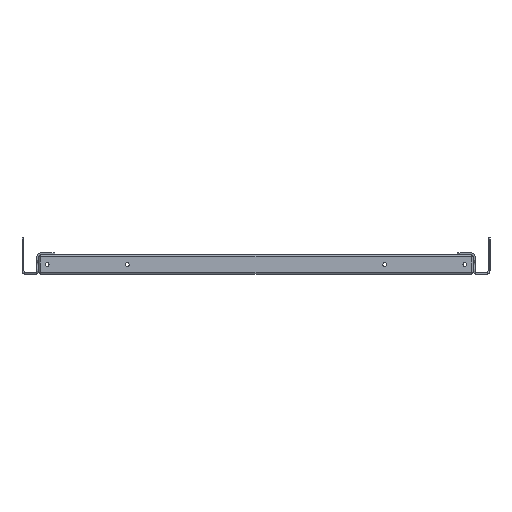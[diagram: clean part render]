
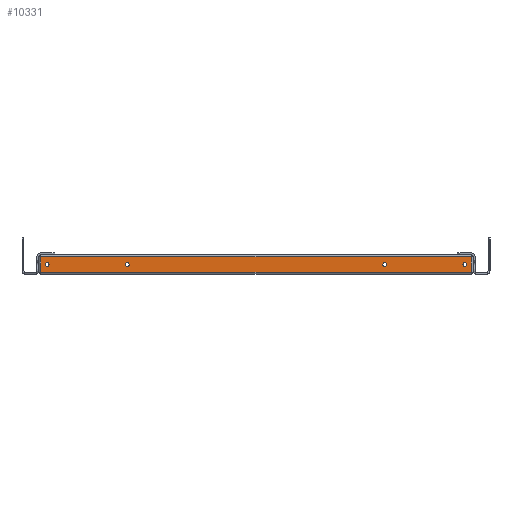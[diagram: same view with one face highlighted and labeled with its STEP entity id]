
A CAD part, left-side view. The second image highlights one B-rep face of the part: STEP entity #10331.
In plain terms, the highlighted planar face has unit normal (-1, 0, 0).
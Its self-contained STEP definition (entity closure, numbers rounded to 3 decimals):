
#59 = DIRECTION ( 'NONE',  ( 0., 0., -1. ) ) ;
#66 = DIRECTION ( 'NONE',  ( 0., -1., 0. ) ) ;
#78 = DIRECTION ( 'NONE',  ( 1., 0., 0. ) ) ;
#213 = DIRECTION ( 'NONE',  ( -1., 0., 0. ) ) ;
#620 = DIRECTION ( 'NONE',  ( 0., 0., 1. ) ) ;
#760 = EDGE_LOOP ( 'NONE', ( #4467, #8200 ) ) ;
#864 = CARTESIAN_POINT ( 'NONE',  ( -425., 133.5, 10. ) ) ;
#921 = AXIS2_PLACEMENT_3D ( 'NONE', #2497, #1570, #620 ) ;
#1041 = VERTEX_POINT ( 'NONE', #10441 ) ;
#1152 = FACE_OUTER_BOUND ( 'NONE', #5793, .T. ) ;
#1268 = VERTEX_POINT ( 'NONE', #12541 ) ;
#1274 = VERTEX_POINT ( 'NONE', #9699 ) ;
#1540 = LINE ( 'NONE', #11308, #3999 ) ;
#1570 = DIRECTION ( 'NONE',  ( -1., 0., 0. ) ) ;
#1728 = VECTOR ( 'NONE', #8345, 1000. ) ;
#1748 = ORIENTED_EDGE ( 'NONE', *, *, #8289, .F. ) ;
#1827 = CARTESIAN_POINT ( 'NONE',  ( -425., -133.5, 10. ) ) ;
#2008 = EDGE_LOOP ( 'NONE', ( #1748, #7408 ) ) ;
#2069 = CARTESIAN_POINT ( 'NONE',  ( -425., -225., 20. ) ) ;
#2109 = VERTEX_POINT ( 'NONE', #6163 ) ;
#2121 = EDGE_CURVE ( 'NONE', #6153, #2109, #7494, .T. ) ;
#2497 = CARTESIAN_POINT ( 'NONE',  ( -425., 216.5, 10. ) ) ;
#2522 = AXIS2_PLACEMENT_3D ( 'NONE', #3559, #4556, #8524 ) ;
#2817 = DIRECTION ( 'NONE',  ( -1., 0., 0. ) ) ;
#2843 = AXIS2_PLACEMENT_3D ( 'NONE', #864, #2817, #12334 ) ;
#2924 = VERTEX_POINT ( 'NONE', #3326 ) ;
#2932 = CARTESIAN_POINT ( 'NONE',  ( -425., 216.5, 12. ) ) ;
#2953 = CIRCLE ( 'NONE', #10430, 2. ) ;
#3271 = CARTESIAN_POINT ( 'NONE',  ( -425., 133.5, 10. ) ) ;
#3279 = ORIENTED_EDGE ( 'NONE', *, *, #10116, .T. ) ;
#3293 = VERTEX_POINT ( 'NONE', #12342 ) ;
#3326 = CARTESIAN_POINT ( 'NONE',  ( -425., -223., 2. ) ) ;
#3463 = CARTESIAN_POINT ( 'NONE',  ( -425., -223., 20. ) ) ;
#3559 = CARTESIAN_POINT ( 'NONE',  ( -425., -133.5, 10. ) ) ;
#3872 = EDGE_CURVE ( 'NONE', #1268, #1041, #8554, .T. ) ;
#3999 = VECTOR ( 'NONE', #9454, 1000. ) ;
#4152 = EDGE_CURVE ( 'NONE', #2109, #6153, #8236, .T. ) ;
#4467 = ORIENTED_EDGE ( 'NONE', *, *, #2121, .F. ) ;
#4556 = DIRECTION ( 'NONE',  ( 1., 0., 0. ) ) ;
#4758 = CIRCLE ( 'NONE', #921, 2. ) ;
#4946 = DIRECTION ( 'NONE',  ( 0., 0., 1. ) ) ;
#5019 = AXIS2_PLACEMENT_3D ( 'NONE', #2069, #10802, #59 ) ;
#5111 = FACE_BOUND ( 'NONE', #2008, .T. ) ;
#5133 = EDGE_CURVE ( 'NONE', #3293, #11257, #10535, .T. ) ;
#5175 = VERTEX_POINT ( 'NONE', #9417 ) ;
#5345 = EDGE_CURVE ( 'NONE', #1041, #2924, #12385, .T. ) ;
#5484 = DIRECTION ( 'NONE',  ( 0., 0., 1. ) ) ;
#5564 = CARTESIAN_POINT ( 'NONE',  ( -425., 216.5, 10. ) ) ;
#5793 = EDGE_LOOP ( 'NONE', ( #7768, #9583, #7449, #6350 ) ) ;
#5988 = ORIENTED_EDGE ( 'NONE', *, *, #6511, .T. ) ;
#6153 = VERTEX_POINT ( 'NONE', #10255 ) ;
#6163 = CARTESIAN_POINT ( 'NONE',  ( -425., 133.5, 8. ) ) ;
#6323 = DIRECTION ( 'NONE',  ( 0., 0., 1. ) ) ;
#6350 = ORIENTED_EDGE ( 'NONE', *, *, #5345, .T. ) ;
#6463 = DIRECTION ( 'NONE',  ( 0., 0., 1. ) ) ;
#6476 = VERTEX_POINT ( 'NONE', #2932 ) ;
#6511 = EDGE_CURVE ( 'NONE', #9754, #7193, #8183, .T. ) ;
#6632 = DIRECTION ( 'NONE',  ( 1., 0., 0. ) ) ;
#6978 = FACE_BOUND ( 'NONE', #7900, .T. ) ;
#7193 = VERTEX_POINT ( 'NONE', #8320 ) ;
#7408 = ORIENTED_EDGE ( 'NONE', *, *, #9484, .F. ) ;
#7449 = ORIENTED_EDGE ( 'NONE', *, *, #3872, .T. ) ;
#7472 = DIRECTION ( 'NONE',  ( 0., 0., -1. ) ) ;
#7494 = CIRCLE ( 'NONE', #11437, 2. ) ;
#7768 = ORIENTED_EDGE ( 'NONE', *, *, #11646, .T. ) ;
#7900 = EDGE_LOOP ( 'NONE', ( #11050, #8030 ) ) ;
#7986 = CARTESIAN_POINT ( 'NONE',  ( -425., -216.5, 8. ) ) ;
#8030 = ORIENTED_EDGE ( 'NONE', *, *, #5133, .T. ) ;
#8183 = CIRCLE ( 'NONE', #9492, 2. ) ;
#8200 = ORIENTED_EDGE ( 'NONE', *, *, #4152, .F. ) ;
#8236 = CIRCLE ( 'NONE', #2843, 2. ) ;
#8289 = EDGE_CURVE ( 'NONE', #6476, #1274, #2953, .T. ) ;
#8320 = CARTESIAN_POINT ( 'NONE',  ( -425., -216.5, 12. ) ) ;
#8345 = DIRECTION ( 'NONE',  ( 0., 0., 1. ) ) ;
#8524 = DIRECTION ( 'NONE',  ( 0., 0., 1. ) ) ;
#8554 = LINE ( 'NONE', #11312, #11477 ) ;
#8635 = AXIS2_PLACEMENT_3D ( 'NONE', #12430, #6632, #5484 ) ;
#8664 = DIRECTION ( 'NONE',  ( 0., 0., 1. ) ) ;
#8914 = LINE ( 'NONE', #3463, #1728 ) ;
#8974 = AXIS2_PLACEMENT_3D ( 'NONE', #1827, #10474, #8664 ) ;
#9312 = EDGE_LOOP ( 'NONE', ( #3279, #5988 ) ) ;
#9417 = CARTESIAN_POINT ( 'NONE',  ( -425., -223., 18. ) ) ;
#9454 = DIRECTION ( 'NONE',  ( 0., 1., 0. ) ) ;
#9484 = EDGE_CURVE ( 'NONE', #1274, #6476, #4758, .T. ) ;
#9492 = AXIS2_PLACEMENT_3D ( 'NONE', #9781, #78, #4946 ) ;
#9583 = ORIENTED_EDGE ( 'NONE', *, *, #12609, .T. ) ;
#9699 = CARTESIAN_POINT ( 'NONE',  ( -425., 216.5, 8. ) ) ;
#9754 = VERTEX_POINT ( 'NONE', #7986 ) ;
#9781 = CARTESIAN_POINT ( 'NONE',  ( -425., -216.5, 10. ) ) ;
#9850 = PLANE ( 'NONE',  #5019 ) ;
#9985 = CARTESIAN_POINT ( 'NONE',  ( -425., -225., 2. ) ) ;
#10116 = EDGE_CURVE ( 'NONE', #7193, #9754, #11105, .T. ) ;
#10223 = VECTOR ( 'NONE', #66, 1000. ) ;
#10255 = CARTESIAN_POINT ( 'NONE',  ( -425., 133.5, 12. ) ) ;
#10331 = ADVANCED_FACE ( 'NONE', ( #10642, #5111, #1152, #10811, #6978 ), #9850, .F. ) ;
#10430 = AXIS2_PLACEMENT_3D ( 'NONE', #5564, #12339, #6463 ) ;
#10441 = CARTESIAN_POINT ( 'NONE',  ( -425., 223., 2. ) ) ;
#10474 = DIRECTION ( 'NONE',  ( 1., 0., 0. ) ) ;
#10535 = CIRCLE ( 'NONE', #2522, 2. ) ;
#10642 = FACE_BOUND ( 'NONE', #760, .T. ) ;
#10802 = DIRECTION ( 'NONE',  ( 1., 0., 0. ) ) ;
#10811 = FACE_BOUND ( 'NONE', #9312, .T. ) ;
#11050 = ORIENTED_EDGE ( 'NONE', *, *, #12054, .T. ) ;
#11105 = CIRCLE ( 'NONE', #8635, 2. ) ;
#11257 = VERTEX_POINT ( 'NONE', #11271 ) ;
#11271 = CARTESIAN_POINT ( 'NONE',  ( -425., -133.5, 12. ) ) ;
#11308 = CARTESIAN_POINT ( 'NONE',  ( -425., 225., 18. ) ) ;
#11312 = CARTESIAN_POINT ( 'NONE',  ( -425., 223., 20. ) ) ;
#11437 = AXIS2_PLACEMENT_3D ( 'NONE', #3271, #213, #6323 ) ;
#11477 = VECTOR ( 'NONE', #7472, 1000. ) ;
#11646 = EDGE_CURVE ( 'NONE', #2924, #5175, #8914, .T. ) ;
#11832 = CIRCLE ( 'NONE', #8974, 2. ) ;
#12054 = EDGE_CURVE ( 'NONE', #11257, #3293, #11832, .T. ) ;
#12334 = DIRECTION ( 'NONE',  ( 0., 0., 1. ) ) ;
#12339 = DIRECTION ( 'NONE',  ( -1., 0., 0. ) ) ;
#12342 = CARTESIAN_POINT ( 'NONE',  ( -425., -133.5, 8. ) ) ;
#12385 = LINE ( 'NONE', #9985, #10223 ) ;
#12430 = CARTESIAN_POINT ( 'NONE',  ( -425., -216.5, 10. ) ) ;
#12541 = CARTESIAN_POINT ( 'NONE',  ( -425., 223., 18. ) ) ;
#12609 = EDGE_CURVE ( 'NONE', #5175, #1268, #1540, .T. ) ;
